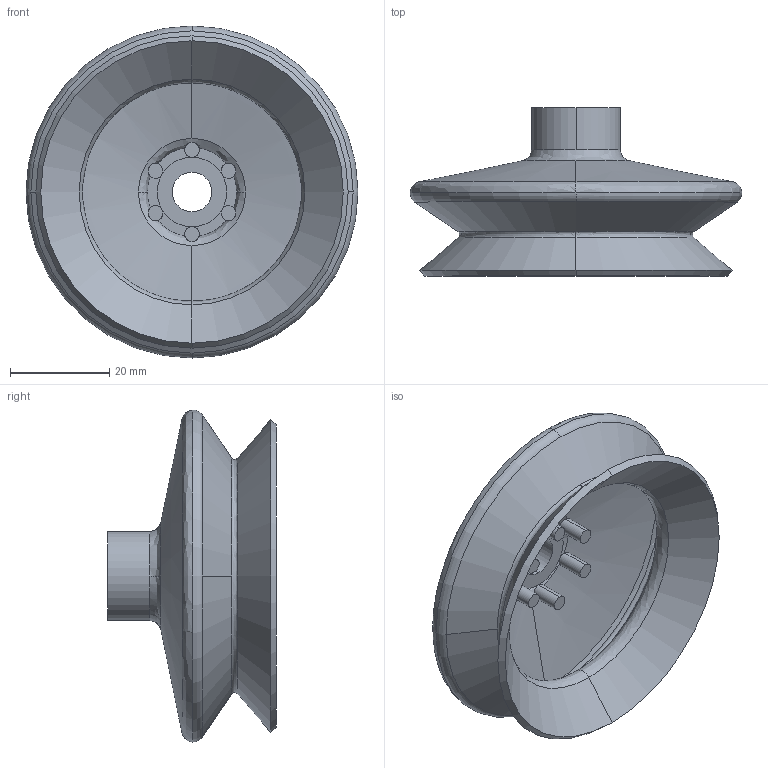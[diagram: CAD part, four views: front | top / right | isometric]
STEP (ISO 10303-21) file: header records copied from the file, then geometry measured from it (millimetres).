
FILE_DESCRIPTION (( 'STEP AP214' ), '1' );
FILE_NAME ('VS2-SA63.STEP', '2019-11-13T08:20:14', ( '微软用户' ), ( '微软中国' ), 'SwSTEP 2.0', 'SolidWorks 2016', '' );
FILE_SCHEMA (( 'AUTOMOTIVE_DESIGN' ));
Length unit declared in the file: millimetre
Products named in the file (1): VS2-SA63
Bounding box: 67 x 34 x 67 mm (x, y, z)
Volume: 16014.5 mm3; surface area: 17124.5 mm2
Topology: 1 solids, 1 shells, 52 faces, 144 edges, 86 vertices
Faces by surface type: cylinder 16, cone 14, bspline 12, plane 8, torus 2
Entity records: 1968 total; most frequent: CARTESIAN_POINT 759, ORIENTED_EDGE 256, DIRECTION 252, EDGE_CURVE 128, AXIS2_PLACEMENT_3D 111, VERTEX_POINT 78, CIRCLE 70, EDGE_LOOP 54
